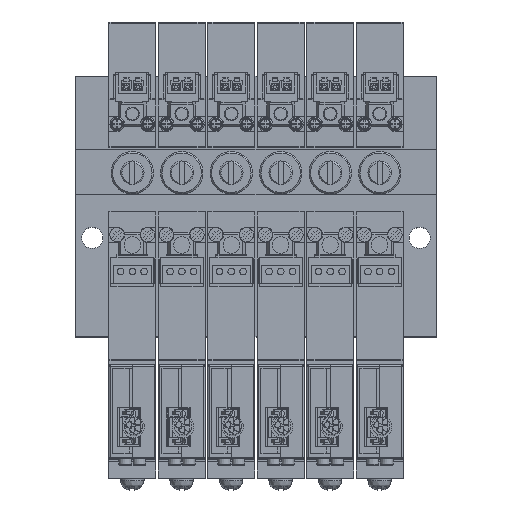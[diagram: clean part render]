
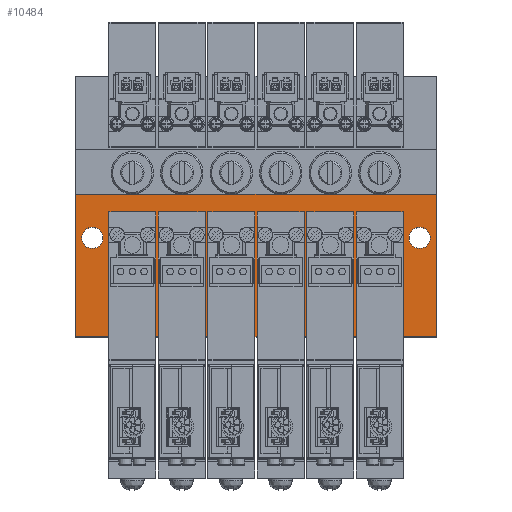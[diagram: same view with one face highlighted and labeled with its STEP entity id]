
A CAD part, top view. The second image highlights one B-rep face of the part: STEP entity #10484.
In plain terms, the highlighted planar face has unit normal (0, 0, 1).
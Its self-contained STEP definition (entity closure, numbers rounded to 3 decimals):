
#10484=ADVANCED_FACE('',(#18134,#18135,#18136),#18137,.F.);
#18134=FACE_BOUND('',#33704,.T.);
#18135=FACE_BOUND('',#33705,.T.);
#18136=FACE_OUTER_BOUND('',#33706,.T.);
#18137=PLANE('',#33707);
#33704=EDGE_LOOP('',(#51474));
#33705=EDGE_LOOP('',(#51475));
#33706=EDGE_LOOP('',(#51476,#51477,#51478,#51479));
#33707=AXIS2_PLACEMENT_3D('',#51480,#51481,#51482);
#51474=ORIENTED_EDGE('',*,*,#111459,.F.);
#51475=ORIENTED_EDGE('',*,*,#111460,.F.);
#51476=ORIENTED_EDGE('',*,*,#111456,.F.);
#51477=ORIENTED_EDGE('',*,*,#111469,.F.);
#51478=ORIENTED_EDGE('',*,*,#111425,.T.);
#51479=ORIENTED_EDGE('',*,*,#111468,.T.);
#51480=CARTESIAN_POINT('',(-76.5,30.3,14.8));
#51481=DIRECTION('',(0.0,0.0,-1.0));
#51482=DIRECTION('',(1.0,0.0,0.0));
#111425=EDGE_CURVE('',#130778,#130776,#130779,.T.);
#111456=EDGE_CURVE('',#130833,#130835,#130836,.T.);
#111459=EDGE_CURVE('',#130840,#130840,#130841,.T.);
#111460=EDGE_CURVE('',#130842,#130842,#130843,.T.);
#111468=EDGE_CURVE('',#130776,#130835,#130857,.T.);
#111469=EDGE_CURVE('',#130778,#130833,#130858,.T.);
#130776=VERTEX_POINT('',#163261);
#130778=VERTEX_POINT('',#163264);
#130779=LINE('',#163265,#163266);
#130833=VERTEX_POINT('',#163333);
#130835=VERTEX_POINT('',#163336);
#130836=LINE('',#163337,#163338);
#130840=VERTEX_POINT('',#163344);
#130841=CIRCLE('',#163345,2.25);
#130842=VERTEX_POINT('',#163346);
#130843=CIRCLE('',#163347,2.25);
#130857=LINE('',#163362,#163363);
#130858=LINE('',#163364,#163365);
#163261=CARTESIAN_POINT('',(-76.5,0.,14.8));
#163264=CARTESIAN_POINT('',(-76.5,30.3,14.8));
#163265=CARTESIAN_POINT('',(-76.5,30.3,14.8));
#163266=VECTOR('',#214848,1.0);
#163333=CARTESIAN_POINT('',(0.0,30.3,14.8));
#163336=CARTESIAN_POINT('',(0.0,0.,14.8));
#163337=CARTESIAN_POINT('',(0.0,30.3,14.8));
#163338=VECTOR('',#214911,1.0);
#163344=CARTESIAN_POINT('',(-1.25,21.0,14.8));
#163345=AXIS2_PLACEMENT_3D('',#214914,#214915,#214916);
#163346=CARTESIAN_POINT('',(-70.75,21.0,14.8));
#163347=AXIS2_PLACEMENT_3D('',#214917,#214918,#214919);
#163362=CARTESIAN_POINT('',(-76.5,0.,14.8));
#163363=VECTOR('',#214939,1.0);
#163364=CARTESIAN_POINT('',(-76.5,30.3,14.8));
#163365=VECTOR('',#214940,1.0);
#214848=DIRECTION('',(0.0,-1.0,0.0));
#214911=DIRECTION('',(0.0,-1.0,0.0));
#214914=CARTESIAN_POINT('',(-3.5,21.0,14.8));
#214915=DIRECTION('',(0.0,0.0,1.0));
#214916=DIRECTION('',(1.0,0.0,0.0));
#214917=CARTESIAN_POINT('',(-73.0,21.0,14.8));
#214918=DIRECTION('',(0.0,0.0,1.0));
#214919=DIRECTION('',(1.0,0.0,0.0));
#214939=DIRECTION('',(1.0,0.0,0.0));
#214940=DIRECTION('',(1.0,0.0,0.0));
